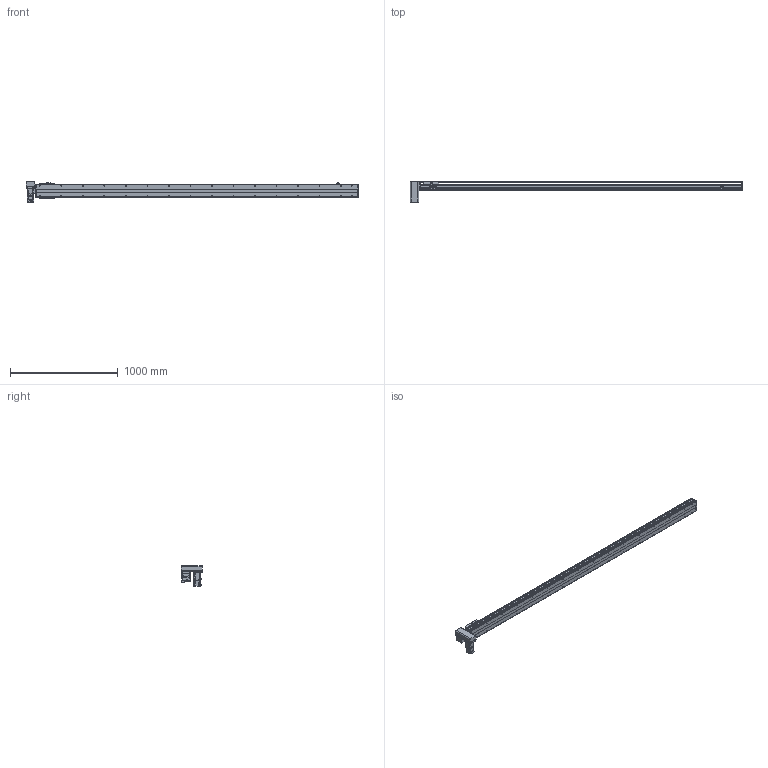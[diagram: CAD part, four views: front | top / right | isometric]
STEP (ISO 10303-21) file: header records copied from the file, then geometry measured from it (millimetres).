
FILE_DESCRIPTION(/* description */ ('STEP AP214'),/* implementation_level */ '2;1');
FILE_NAME(/* name */ 'PBS120-P40-S2700-RD-T40-C1-N(0)',/* time_stamp */ '2022-06-06T02:44:26+02:00',/* author */ ('License CC BY-ND 4.0'),/* organization */ ('CADENAS'),/* preprocessor_version */ 'ST-DEVELOPER v18.102',/* originating_system */ 'PARTsolutions',/* authorisation */ ' ');
FILE_SCHEMA (('AUTOMOTIVE_DESIGN {1 0 10303 214 3 1 1}'));
Length unit declared in the file: millimetre
Products named in the file (7): PBS120-P40-S2700-RD-T40-C1-N(0); PBS120_sensor; PBS120_plant; PBS120_sliser; T40-p1; PBS120T-RD_motors; PBS120-S2700()_body
Assembly tree (8 placements, depth 2):
  PBS120-P40-S2700-RD-T40-C1-N(0)
    PBS120_sensor  x3
    PBS120_plant
    PBS120_sliser
    T40-p1
    PBS120T-RD_motors
    PBS120-S2700()_body
Bounding box: 3086 x 196 x 189.7 mm (x, y, z)
Volume: 11494608.1 mm3; surface area: 2384698.3 mm2
Topology: 8 solids, 8 shells, 876 faces, 2236 edges, 1435 vertices
Faces by surface type: plane 565, cylinder 245, cone 64, torus 2
Full cylindrical faces by diameter (mm): 2.459 x6, 3.242 x4, 4 x2, 4.134 x4, 4.5 x10, 4.917 x36, 5.5 x11, 6 x2, 6.6 x1, 7 x2, 8.5 x4, 9 x4, 12 x1, 14 x1, 30 x2, 40 x1, 50 x2
Entity records: 22554 total; most frequent: DIRECTION 3932, CARTESIAN_POINT 3821, ORIENTED_EDGE 3598, EDGE_CURVE 1799, AXIS2_PLACEMENT_3D 1352, VERTEX_POINT 1241, LINE 1228, VECTOR 1228
